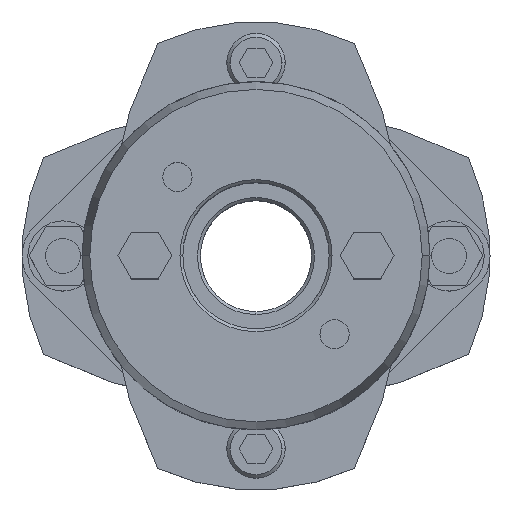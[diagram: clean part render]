
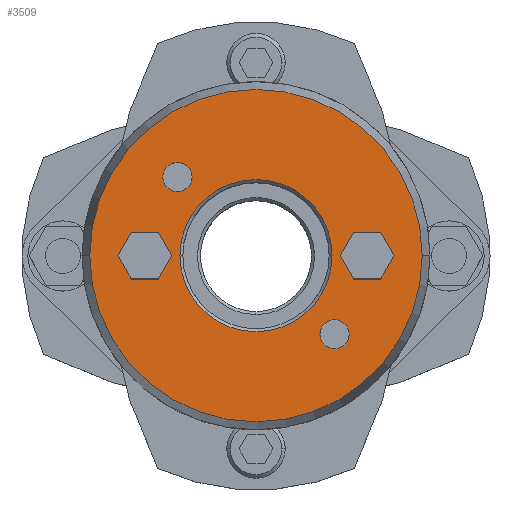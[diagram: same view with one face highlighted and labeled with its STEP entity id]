
A CAD part, top view. The second image highlights one B-rep face of the part: STEP entity #3509.
In plain terms, the highlighted planar face has unit normal (0, 0, 1).
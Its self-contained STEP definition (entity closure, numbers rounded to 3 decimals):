
#1471=CARTESIAN_POINT('',(-13.,0.,35.875));
#1472=VERTEX_POINT('',#1471);
#1488=CARTESIAN_POINT('',(13.,0.,35.875));
#1489=VERTEX_POINT('',#1488);
#1496=CARTESIAN_POINT('',(0.,0.,35.875));
#1497=DIRECTION('',(0.0,0.0,1.0));
#1498=DIRECTION('',(-1.0,0.0,0.0));
#1499=AXIS2_PLACEMENT_3D('',#1496,#1497,#1498);
#1500=CIRCLE('',#1499,13.0);
#1501=EDGE_CURVE('',#1489,#1472,#1500,.T.);
#1617=CARTESIAN_POINT('',(28.41,0.,35.875));
#1618=VERTEX_POINT('',#1617);
#1627=CARTESIAN_POINT('',(-28.41,0.,35.875));
#1628=VERTEX_POINT('',#1627);
#1629=CARTESIAN_POINT('',(0.,0.,35.875));
#1630=DIRECTION('',(0.0,0.0,-1.0));
#1631=DIRECTION('',(1.0,0.0,0.0));
#1632=AXIS2_PLACEMENT_3D('',#1629,#1630,#1631);
#1633=CIRCLE('',#1632,28.41);
#1634=EDGE_CURVE('',#1618,#1628,#1633,.T.);
#1803=CARTESIAN_POINT('',(-15.935,13.435,35.875));
#1804=VERTEX_POINT('',#1803);
#1820=CARTESIAN_POINT('',(-10.935,13.435,35.875));
#1821=VERTEX_POINT('',#1820);
#1828=CARTESIAN_POINT('',(-13.435,13.435,35.875));
#1829=DIRECTION('',(0.0,0.0,-1.0));
#1830=DIRECTION('',(-1.0,0.0,0.0));
#1831=AXIS2_PLACEMENT_3D('',#1828,#1829,#1830);
#1832=CIRCLE('',#1831,2.5);
#1833=EDGE_CURVE('',#1804,#1821,#1832,.T.);
#1845=CARTESIAN_POINT('',(10.935,-13.435,35.875));
#1846=VERTEX_POINT('',#1845);
#1862=CARTESIAN_POINT('',(15.935,-13.435,35.875));
#1863=VERTEX_POINT('',#1862);
#1870=CARTESIAN_POINT('',(13.435,-13.435,35.875));
#1871=DIRECTION('',(0.0,0.0,-1.0));
#1872=DIRECTION('',(-1.0,0.0,0.0));
#1873=AXIS2_PLACEMENT_3D('',#1870,#1871,#1872);
#1874=CIRCLE('',#1873,2.5);
#1875=EDGE_CURVE('',#1846,#1863,#1874,.T.);
#2635=CARTESIAN_POINT('',(14.381,0.,35.875));
#2636=VERTEX_POINT('',#2635);
#2643=CARTESIAN_POINT('',(16.691,-4.,35.875));
#2644=VERTEX_POINT('',#2643);
#2645=CARTESIAN_POINT('',(16.691,-4.,35.875));
#2646=DIRECTION('',(-0.5,0.866,0.0));
#2647=VECTOR('',#2646,4.619);
#2648=LINE('',#2645,#2647);
#2649=EDGE_CURVE('',#2644,#2636,#2648,.T.);
#2673=CARTESIAN_POINT('',(16.691,4.,35.875));
#2674=VERTEX_POINT('',#2673);
#2681=CARTESIAN_POINT('',(14.381,0.,35.875));
#2682=DIRECTION('',(0.5,0.866,0.0));
#2683=VECTOR('',#2682,4.619);
#2684=LINE('',#2681,#2683);
#2685=EDGE_CURVE('',#2636,#2674,#2684,.T.);
#2704=CARTESIAN_POINT('',(21.309,4.,35.875));
#2705=VERTEX_POINT('',#2704);
#2712=CARTESIAN_POINT('',(16.691,4.,35.875));
#2713=DIRECTION('',(1.0,0.0,0.0));
#2714=VECTOR('',#2713,4.619);
#2715=LINE('',#2712,#2714);
#2716=EDGE_CURVE('',#2674,#2705,#2715,.T.);
#2735=CARTESIAN_POINT('',(23.619,0.,35.875));
#2736=VERTEX_POINT('',#2735);
#2743=CARTESIAN_POINT('',(21.309,4.,35.875));
#2744=DIRECTION('',(0.5,-0.866,0.0));
#2745=VECTOR('',#2744,4.619);
#2746=LINE('',#2743,#2745);
#2747=EDGE_CURVE('',#2705,#2736,#2746,.T.);
#2766=CARTESIAN_POINT('',(21.309,-4.,35.875));
#2767=VERTEX_POINT('',#2766);
#2774=CARTESIAN_POINT('',(23.619,0.,35.875));
#2775=DIRECTION('',(-0.5,-0.866,0.0));
#2776=VECTOR('',#2775,4.619);
#2777=LINE('',#2774,#2776);
#2778=EDGE_CURVE('',#2736,#2767,#2777,.T.);
#2796=CARTESIAN_POINT('',(21.309,-4.,35.875));
#2797=DIRECTION('',(-1.0,0.0,0.0));
#2798=VECTOR('',#2797,4.619);
#2799=LINE('',#2796,#2798);
#2800=EDGE_CURVE('',#2767,#2644,#2799,.T.);
#2835=CARTESIAN_POINT('',(-23.619,0.,35.875));
#2836=VERTEX_POINT('',#2835);
#2843=CARTESIAN_POINT('',(-21.309,-4.,35.875));
#2844=VERTEX_POINT('',#2843);
#2845=CARTESIAN_POINT('',(-21.309,-4.,35.875));
#2846=DIRECTION('',(-0.5,0.866,0.0));
#2847=VECTOR('',#2846,4.619);
#2848=LINE('',#2845,#2847);
#2849=EDGE_CURVE('',#2844,#2836,#2848,.T.);
#2873=CARTESIAN_POINT('',(-21.309,4.,35.875));
#2874=VERTEX_POINT('',#2873);
#2881=CARTESIAN_POINT('',(-23.619,0.,35.875));
#2882=DIRECTION('',(0.5,0.866,0.0));
#2883=VECTOR('',#2882,4.619);
#2884=LINE('',#2881,#2883);
#2885=EDGE_CURVE('',#2836,#2874,#2884,.T.);
#2904=CARTESIAN_POINT('',(-16.691,4.,35.875));
#2905=VERTEX_POINT('',#2904);
#2912=CARTESIAN_POINT('',(-21.309,4.,35.875));
#2913=DIRECTION('',(1.0,0.0,0.0));
#2914=VECTOR('',#2913,4.619);
#2915=LINE('',#2912,#2914);
#2916=EDGE_CURVE('',#2874,#2905,#2915,.T.);
#2935=CARTESIAN_POINT('',(-14.381,0.,35.875));
#2936=VERTEX_POINT('',#2935);
#2943=CARTESIAN_POINT('',(-16.691,4.,35.875));
#2944=DIRECTION('',(0.5,-0.866,0.0));
#2945=VECTOR('',#2944,4.619);
#2946=LINE('',#2943,#2945);
#2947=EDGE_CURVE('',#2905,#2936,#2946,.T.);
#2966=CARTESIAN_POINT('',(-16.691,-4.,35.875));
#2967=VERTEX_POINT('',#2966);
#2974=CARTESIAN_POINT('',(-14.381,0.,35.875));
#2975=DIRECTION('',(-0.5,-0.866,0.0));
#2976=VECTOR('',#2975,4.619);
#2977=LINE('',#2974,#2976);
#2978=EDGE_CURVE('',#2936,#2967,#2977,.T.);
#2996=CARTESIAN_POINT('',(-16.691,-4.,35.875));
#2997=DIRECTION('',(-1.0,0.0,0.0));
#2998=VECTOR('',#2997,4.619);
#2999=LINE('',#2996,#2998);
#3000=EDGE_CURVE('',#2967,#2844,#2999,.T.);
#3026=CARTESIAN_POINT('',(13.435,-13.435,35.875));
#3027=DIRECTION('',(0.0,0.0,-1.0));
#3028=DIRECTION('',(-1.0,0.0,0.0));
#3029=AXIS2_PLACEMENT_3D('',#3026,#3027,#3028);
#3030=CIRCLE('',#3029,2.5);
#3031=EDGE_CURVE('',#1863,#1846,#3030,.T.);
#3060=CARTESIAN_POINT('',(-13.435,13.435,35.875));
#3061=DIRECTION('',(0.0,0.0,-1.0));
#3062=DIRECTION('',(-1.0,0.0,0.0));
#3063=AXIS2_PLACEMENT_3D('',#3060,#3061,#3062);
#3064=CIRCLE('',#3063,2.5);
#3065=EDGE_CURVE('',#1821,#1804,#3064,.T.);
#3456=CARTESIAN_POINT('',(0.,0.,35.875));
#3457=DIRECTION('',(0.0,0.0,-1.0));
#3458=DIRECTION('',(1.0,0.0,0.0));
#3459=AXIS2_PLACEMENT_3D('',#3456,#3457,#3458);
#3460=CIRCLE('',#3459,28.41);
#3461=EDGE_CURVE('',#1628,#1618,#3460,.T.);
#3466=CARTESIAN_POINT('',(-2.364,0.,35.875));
#3467=DIRECTION('',(0.0,0.0,1.0));
#3468=DIRECTION('',(-1.0,0.0,0.0));
#3469=AXIS2_PLACEMENT_3D('',#3466,#3467,#3468);
#3470=PLANE('',#3469);
#3471=ORIENTED_EDGE('',*,*,#3461,.F.);
#3472=ORIENTED_EDGE('',*,*,#1634,.F.);
#3473=EDGE_LOOP('',(#3471,#3472));
#3474=FACE_OUTER_BOUND('',#3473,.T.);
#3475=ORIENTED_EDGE('',*,*,#2649,.T.);
#3476=ORIENTED_EDGE('',*,*,#2685,.T.);
#3477=ORIENTED_EDGE('',*,*,#2716,.T.);
#3478=ORIENTED_EDGE('',*,*,#2747,.T.);
#3479=ORIENTED_EDGE('',*,*,#2778,.T.);
#3480=ORIENTED_EDGE('',*,*,#2800,.T.);
#3481=EDGE_LOOP('',(#3475,#3476,#3477,#3478,#3479,#3480));
#3482=FACE_BOUND('',#3481,.T.);
#3483=ORIENTED_EDGE('',*,*,#2849,.T.);
#3484=ORIENTED_EDGE('',*,*,#2885,.T.);
#3485=ORIENTED_EDGE('',*,*,#2916,.T.);
#3486=ORIENTED_EDGE('',*,*,#2947,.T.);
#3487=ORIENTED_EDGE('',*,*,#2978,.T.);
#3488=ORIENTED_EDGE('',*,*,#3000,.T.);
#3489=EDGE_LOOP('',(#3483,#3484,#3485,#3486,#3487,#3488));
#3490=FACE_BOUND('',#3489,.T.);
#3491=ORIENTED_EDGE('',*,*,#1875,.T.);
#3492=ORIENTED_EDGE('',*,*,#3031,.T.);
#3493=EDGE_LOOP('',(#3491,#3492));
#3494=FACE_BOUND('',#3493,.T.);
#3495=ORIENTED_EDGE('',*,*,#1833,.T.);
#3496=ORIENTED_EDGE('',*,*,#3065,.T.);
#3497=EDGE_LOOP('',(#3495,#3496));
#3498=FACE_BOUND('',#3497,.T.);
#3499=ORIENTED_EDGE('',*,*,#1501,.F.);
#3500=CARTESIAN_POINT('',(0.,0.,35.875));
#3501=DIRECTION('',(0.0,0.0,1.0));
#3502=DIRECTION('',(-1.0,0.0,0.0));
#3503=AXIS2_PLACEMENT_3D('',#3500,#3501,#3502);
#3504=CIRCLE('',#3503,13.0);
#3505=EDGE_CURVE('',#1472,#1489,#3504,.T.);
#3506=ORIENTED_EDGE('',*,*,#3505,.F.);
#3507=EDGE_LOOP('',(#3499,#3506));
#3508=FACE_BOUND('',#3507,.T.);
#3509=ADVANCED_FACE('',(#3474,#3482,#3490,#3494,#3498,#3508),#3470,.T.);
